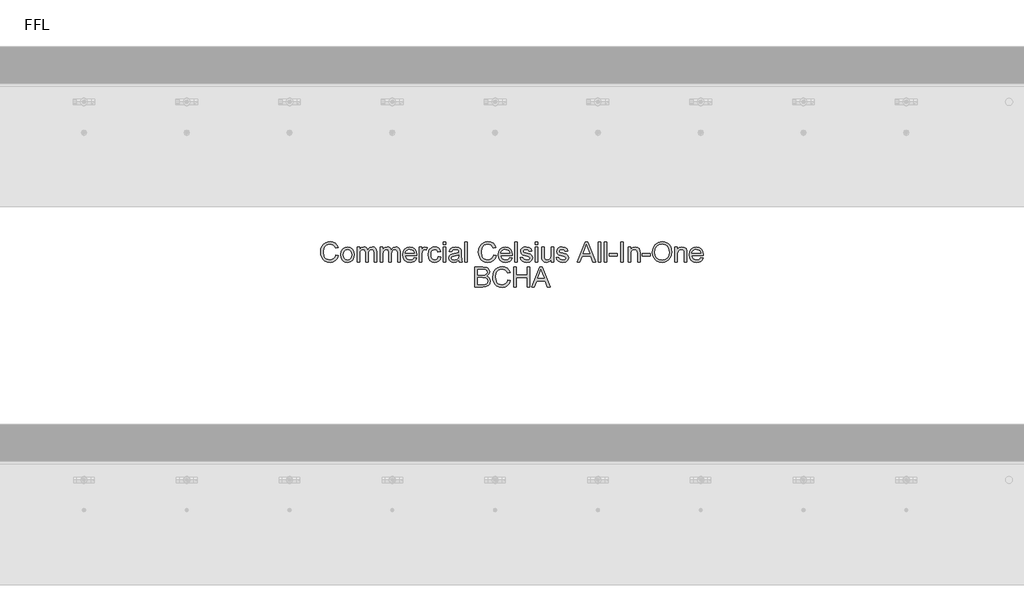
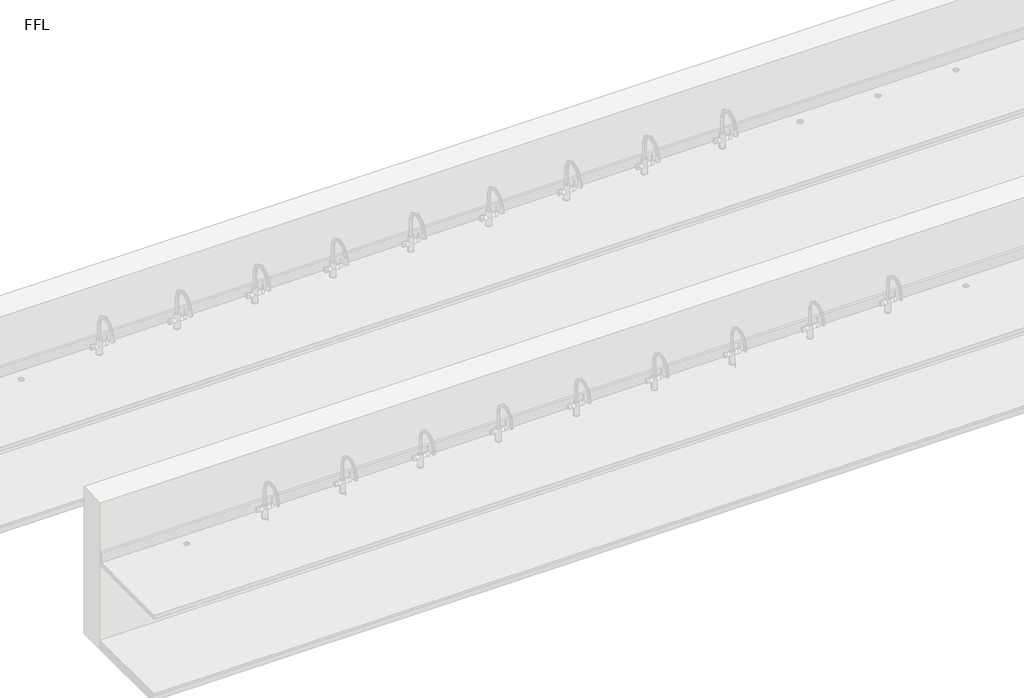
# One storey, part 8 of 10: 1 proxy.
"""IFC4 building model written with IfcOpenShell, lengths in millimetres."""

from ifc_helpers import new_model, si_unit, origin, origin_with_axes, place, context, project, spatial, polyline, outline, extrude, element, save

model = new_model("IFC4")

# Units and contexts
model_context = context("Model", 3, world=origin())
ifc_project = project(units=[si_unit("LENGTHUNIT", "METRE", prefix="MILLI")], contexts=[model_context])

# Site, building, storey
site = spatial("IfcSite", under=ifc_project)
building = spatial("IfcBuilding", under=site)
storey = spatial("IfcBuildingStorey", under=building, Name="FFL", Elevation=0.0)

# Proxy
placement = place(None, origin())
element("IfcBuildingElementProxy", 1, Name="150mm Arial", ObjectType="150mm Arial", at=placement, inside=storey, context=model_context, shape_type="SweptSolid", body=[
    extrude(outline(polyline([(-3627.8122159, 6596.3018309), (-3609.3506775, 6591.5422155), (-3617.8693073, 6570.0292948), (-3631.2376967, 6554.3126482), (-3648.7977929, 6544.698766), (-3669.8915429, 6541.4941386), (-3691.3053049, 6543.9190184), (-3708.311014, 6551.1936578), (-3721.3458698, 6563.065653), (-3730.8470717, 6579.2826001), (-3736.647853, 6598.3481049), (-3738.5814467, 6618.7657732), (-3736.3954491, 6640.3012299), (-3729.8374563, 6658.8979847), (-3719.2500164, 6673.9655929), (-3704.9756775, 6684.9136097), (-3688.0465909, 6691.5797756), (-3669.4949083, 6693.8018309), (-3649.2530212, 6690.9262299), (-3632.5177448, 6682.299427), (-3619.8119155, 6668.4532732), (-3611.6583698, 6649.9196193), (-3630.1199083, 6645.5205809), (-3636.5201486, 6658.9836217), (-3645.264139, 6668.2188982), (-3656.4600525, 6673.5599439), (-3670.2160621, 6675.3402924), (-3686.0724323, 6673.3661338), (-3699.0982736, 6667.4436578), (-3708.9825885, 6658.1948597), (-3715.4143794, 6646.2417347), (-3720.1199083, 6618.8018309), (-3714.5489948, 6586.9989463), (-3707.4276006, 6575.1224439), (-3697.2052448, 6566.6804367), (-3684.9501366, 6561.6368669), (-3671.7304852, 6559.955677), (-3656.3203289, 6562.2453405), (-3643.4792833, 6569.1143309), (-3633.7842712, 6580.4905328), (-3627.8122159, 6596.3018309)])), origin_with_axes(), (0.0, 0.0, 1.0), 5.0),
    extrude(outline(polyline([(-3590.889139, 6598.0326001), (-3586.8957496, 6624.1834415), (-3574.9155813, 6642.5638501), (-3560.1138986, 6651.5692588), (-3542.3915429, 6654.5710617), (-3522.9970116, 6650.9157131), (-3507.5057256, 6639.9496674), (-3497.350978, 6622.5383092), (-3493.9660621, 6599.5470232), (-3495.4624563, 6580.8961818), (-3499.951639, 6566.6984655), (-3507.302901, 6556.0659535), (-3517.3855333, 6548.1107251), (-3529.3611943, 6543.1482852), (-3542.3915429, 6541.4941386), (-3562.0204491, 6545.1359655), (-3577.4937063, 6556.0614463), (-3587.5402809, 6573.8378886), (-3590.889139, 6598.0326001)]), holes=[polyline([(-3572.4276006, 6598.0686578), (-3570.2911823, 6581.3604246), (-3563.8819275, 6569.456879), (-3554.2364948, 6562.3309775), (-3542.3915429, 6559.955677), (-3530.6006775, 6562.3444992), (-3520.9732736, 6569.5109655), (-3514.5640188, 6581.5722636), (-3512.4276006, 6598.6455809), (-3514.5775405, 6614.8670352), (-3521.0273602, 6626.6083213), (-3530.6682857, 6633.7342227), (-3542.3915429, 6636.1095232), (-3554.2364948, 6633.7432371), (-3563.8819275, 6626.644379), (-3570.2911823, 6614.7678766), (-3572.4276006, 6598.0686578)])]), origin_with_axes(), (0.0, 0.0, 1.0), 5.0),
    extrude(outline(polyline([(-3473.1968313, 6543.8018309), (-3473.1968313, 6652.2633693), (-3454.7352929, 6652.2633693), (-3454.7352929, 6634.4148117), (-3442.0429852, 6649.0362059), (-3423.9780813, 6654.5710617), (-3413.7106534, 6653.1603044), (-3405.4804852, 6648.9280328), (-3395.3122159, 6633.1167347), (-3380.9071679, 6649.2074799), (-3362.7160621, 6654.5710617), (-3348.8383578, 6652.3399919), (-3338.5754371, 6645.6467828), (-3332.2337905, 6634.3111458), (-3330.1199083, 6618.1527924), (-3330.1199083, 6543.8018309), (-3348.5814467, 6543.8018309), (-3348.5814467, 6610.2201001), (-3350.2941871, 6625.6347636), (-3356.4961102, 6633.2249078), (-3367.0429852, 6636.1095232), (-3377.0444876, 6634.2615665), (-3385.1980333, 6628.7176963), (-3390.6202087, 6619.0993068), (-3392.4276006, 6605.0277924), (-3392.4276006, 6543.8018309), (-3410.889139, 6543.8018309), (-3410.889139, 6612.2753886), (-3415.1619756, 6630.160004), (-3420.8004972, 6634.6221434), (-3429.170389, 6636.1095232), (-3442.8362544, 6632.143177), (-3451.9227929, 6620.5326001), (-3454.7352929, 6598.5013501), (-3454.7352929, 6543.8018309), (-3473.1968313, 6543.8018309)])), origin_with_axes(), (0.0, 0.0, 1.0), 5.0),
    extrude(outline(polyline([(-3302.4276006, 6543.8018309), (-3302.4276006, 6652.2633693), (-3283.9660621, 6652.2633693), (-3283.9660621, 6634.4148117), (-3271.2737544, 6649.0362059), (-3253.2088506, 6654.5710617), (-3242.9414227, 6653.1603044), (-3234.7112544, 6648.9280328), (-3224.5429852, 6633.1167347), (-3210.1379371, 6649.2074799), (-3191.9468313, 6654.5710617), (-3178.069127, 6652.3399919), (-3167.8062063, 6645.6467828), (-3161.4645597, 6634.3111458), (-3159.3506775, 6618.1527924), (-3159.3506775, 6543.8018309), (-3177.8122159, 6543.8018309), (-3177.8122159, 6610.2201001), (-3179.5249563, 6625.6347636), (-3185.7268794, 6633.2249078), (-3196.2737544, 6636.1095232), (-3206.2752568, 6634.2615665), (-3214.4288025, 6628.7176963), (-3219.850978, 6619.0993068), (-3221.6583698, 6605.0277924), (-3221.6583698, 6543.8018309), (-3240.1199083, 6543.8018309), (-3240.1199083, 6612.2753886), (-3244.3927448, 6630.160004), (-3250.0312664, 6634.6221434), (-3258.4011583, 6636.1095232), (-3272.0670236, 6632.143177), (-3281.1535621, 6620.5326001), (-3283.9660621, 6598.5013501), (-3283.9660621, 6543.8018309), (-3302.4276006, 6543.8018309)])), origin_with_axes(), (0.0, 0.0, 1.0), 5.0),
    extrude(outline(polyline([(-3055.7208698, 6576.1095232), (-3037.6199083, 6573.8018309), (-3044.1418434, 6560.1630088), (-3054.5489948, 6549.9676963), (-3068.6069876, 6543.612528), (-3086.0814467, 6541.4941386), (-3107.7431054, 6545.1494871), (-3124.4107736, 6556.1155328), (-3135.0387784, 6573.6801362), (-3138.5814467, 6597.1311578), (-3135.0027208, 6621.3709415), (-3124.2665429, 6639.4989463), (-3107.8242352, 6650.8030328), (-3087.1271198, 6654.5710617), (-3067.0745357, 6650.8120472), (-3051.0513986, 6639.535004), (-3040.5450885, 6621.4430568), (-3037.0429852, 6597.2393309), (-3037.1511583, 6592.2633693), (-3120.1199083, 6592.2633693), (-3116.9242953, 6578.4442588), (-3109.5009179, 6568.285004), (-3098.787276, 6562.0380088), (-3085.7208698, 6559.955677), (-3067.6199083, 6563.8138501), (-3055.7208698, 6576.1095232)]), holes=[polyline([(-3120.1199083, 6610.7249078), (-3055.5045236, 6610.7249078), (-3058.0015188, 6620.4785136), (-3062.8963506, 6627.455677), (-3073.6595717, 6633.9460617), (-3087.1992352, 6636.1095232), (-3099.6436462, 6634.3832612), (-3109.9336102, 6629.2044751), (-3117.0865549, 6621.1320592), (-3120.1199083, 6610.7249078)])]), origin_with_axes(), (0.0, 0.0, 1.0), 5.0),
    extrude(outline(polyline([(-3018.5814467, 6543.8018309), (-3018.5814467, 6652.2633693), (-3002.4276006, 6652.2633693), (-3002.4276006, 6636.2176963), (-2990.9612544, 6651.0013501), (-2979.4227929, 6654.5710617), (-2960.889139, 6648.8739463), (-2967.0550044, 6632.3234655), (-2980.0357736, 6636.1095232), (-2990.4744756, 6632.4676963), (-2997.1271198, 6622.3715424), (-3000.1199083, 6600.8090424), (-3000.1199083, 6543.8018309), (-3018.5814467, 6543.8018309)])), origin_with_axes(), (0.0, 0.0, 1.0), 5.0),
    extrude(outline(polyline([(-2880.1199083, 6583.0326001), (-2861.6583698, 6580.7249078), (-2866.8056054, 6564.3051362), (-2876.4780813, 6551.8967828), (-2889.7653409, 6544.0947996), (-2905.7569275, 6541.4941386), (-2925.3948482, 6545.1224439), (-2940.7509179, 6556.0073597), (-2950.662276, 6573.6711217), (-2953.9660621, 6597.6359655), (-2948.3230333, 6628.3030328), (-2941.201639, 6639.8009294), (-2931.123514, 6648.0085617), (-2919.0667232, 6652.9304367), (-2906.0093313, 6654.5710617), (-2890.4098722, 6652.3174559), (-2877.9384179, 6645.5566386), (-2868.991603, 6634.6491867), (-2863.9660621, 6619.955677), (-2882.4276006, 6617.6479847), (-2890.9913025, 6631.4761097), (-2905.8651006, 6636.1095232), (-2917.7956895, 6633.8288742), (-2927.2653409, 6626.986927), (-2933.444728, 6615.2140905), (-2935.5045236, 6598.1407732), (-2933.4898001, 6580.8375881), (-2927.4456294, 6569.0241867), (-2918.147252, 6562.2228044), (-2906.3699083, 6559.955677), (-2896.8101126, 6561.3709415), (-2888.9720717, 6565.6167347), (-2883.2704491, 6572.8012299), (-2880.1199083, 6583.0326001)])), origin_with_axes(), (0.0, 0.0, 1.0), 5.0),
    extrude(outline(polyline([(-2845.5045236, 6673.0326001), (-2845.5045236, 6691.4941386), (-2827.0429852, 6691.4941386), (-2827.0429852, 6673.0326001), (-2845.5045236, 6673.0326001)])), origin_with_axes(), (0.0, 0.0, 1.0), 5.0),
    extrude(outline(polyline([(-2845.5045236, 6543.8018309), (-2845.5045236, 6652.2633693), (-2827.0429852, 6652.2633693), (-2827.0429852, 6543.8018309), (-2845.5045236, 6543.8018309)])), origin_with_axes(), (0.0, 0.0, 1.0), 5.0),
    extrude(outline(polyline([(-2730.1199083, 6557.6479847), (-2748.0225525, 6545.1359655), (-2767.8001967, 6541.4941386), (-2783.2283818, 6543.6846434), (-2794.6090909, 6550.2561578), (-2801.6268193, 6560.2351242), (-2803.9660621, 6572.6479847), (-2800.4324083, 6587.2513501), (-2791.1475525, 6597.8523117), (-2778.2208698, 6603.910004), (-2762.2473121, 6606.6864463), (-2730.2280813, 6613.0326001), (-2730.1199083, 6617.143177), (-2731.3909419, 6625.3823597), (-2735.2040429, 6630.7729847), (-2743.7316871, 6634.7753886), (-2755.6126967, 6636.1095232), (-2774.2905813, 6632.5578405), (-2783.1968313, 6619.955677), (-2801.6583698, 6622.2633693), (-2793.6715909, 6640.2922155), (-2777.5898602, 6650.8571193), (-2753.232889, 6654.5710617), (-2730.8590909, 6651.2898117), (-2718.2208698, 6643.050629), (-2712.5598121, 6630.5205809), (-2711.6583698, 6614.3667347), (-2711.6583698, 6591.3979847), (-2710.7208698, 6559.3246674), (-2707.0429852, 6543.8018309), (-2725.5045236, 6543.8018309), (-2730.1199083, 6557.6479847)]), holes=[polyline([(-2730.1199083, 6594.5710617), (-2759.9035621, 6588.910004), (-2775.7869756, 6585.9172155), (-2782.9804852, 6581.049427), (-2785.5045236, 6573.9460617), (-2780.0057256, 6563.9580809), (-2763.8699083, 6559.955677), (-2745.1920236, 6564.3727443), (-2733.1487544, 6575.0638501), (-2730.2280813, 6589.3426963), (-2730.1199083, 6594.5710617)])]), origin_with_axes(), (0.0, 0.0, 1.0), 5.0),
    extrude(outline(polyline([(-2686.2737544, 6543.8018309), (-2686.2737544, 6691.4941386), (-2667.8122159, 6691.4941386), (-2667.8122159, 6543.8018309), (-2686.2737544, 6543.8018309)])), origin_with_axes(), (0.0, 0.0, 1.0), 5.0),
    extrude(outline(polyline([(-2476.2737544, 6596.3018309), (-2457.8122159, 6591.5422155), (-2466.3308458, 6570.0292948), (-2479.6992352, 6554.3126482), (-2497.2593313, 6544.698766), (-2518.3530813, 6541.4941386), (-2539.7668434, 6543.9190184), (-2556.7725525, 6551.1936578), (-2569.8074083, 6563.065653), (-2579.3086102, 6579.2826001), (-2585.1093914, 6598.3481049), (-2587.0429852, 6618.7657732), (-2584.8569876, 6640.3012299), (-2578.2989948, 6658.8979847), (-2567.7115549, 6673.9655929), (-2553.4372159, 6684.9136097), (-2536.5081294, 6691.5797756), (-2517.9564467, 6693.8018309), (-2497.7145597, 6690.9262299), (-2480.9792833, 6682.299427), (-2468.2734539, 6668.4532732), (-2460.1199083, 6649.9196193), (-2478.5814467, 6645.5205809), (-2484.9816871, 6658.9836217), (-2493.7256775, 6668.2188982), (-2504.9215909, 6673.5599439), (-2518.6776006, 6675.3402924), (-2534.5339708, 6673.3661338), (-2547.5598121, 6667.4436578), (-2557.444127, 6658.1948597), (-2563.8759179, 6646.2417347), (-2568.5814467, 6618.8018309), (-2563.0105333, 6586.9989463), (-2555.889139, 6575.1224439), (-2545.6667833, 6566.6804367), (-2533.4116751, 6561.6368669), (-2520.1920236, 6559.955677), (-2504.7818674, 6562.2453405), (-2491.9408217, 6569.1143309), (-2482.2458097, 6580.4905328), (-2476.2737544, 6596.3018309)])), origin_with_axes(), (0.0, 0.0, 1.0), 5.0),
    extrude(outline(polyline([(-2358.7977929, 6576.1095232), (-2340.6968313, 6573.8018309), (-2347.2187664, 6560.1630088), (-2357.6259179, 6549.9676963), (-2371.6839107, 6543.612528), (-2389.1583698, 6541.4941386), (-2410.8200284, 6545.1494871), (-2427.4876967, 6556.1155328), (-2438.1157015, 6573.6801362), (-2441.6583698, 6597.1311578), (-2438.0796438, 6621.3709415), (-2427.3434659, 6639.4989463), (-2410.9011583, 6650.8030328), (-2390.2040429, 6654.5710617), (-2370.1514587, 6650.8120472), (-2354.1283217, 6639.535004), (-2343.6220116, 6621.4430568), (-2340.1199083, 6597.2393309), (-2340.2280813, 6592.2633693), (-2423.1968313, 6592.2633693), (-2420.0012184, 6578.4442588), (-2412.5778409, 6568.285004), (-2401.8641991, 6562.0380088), (-2388.7977929, 6559.955677), (-2370.6968313, 6563.8138501), (-2358.7977929, 6576.1095232)]), holes=[polyline([(-2423.1968313, 6610.7249078), (-2358.5814467, 6610.7249078), (-2361.0784419, 6620.4785136), (-2365.9732736, 6627.455677), (-2376.7364948, 6633.9460617), (-2390.2761583, 6636.1095232), (-2402.7205693, 6634.3832612), (-2413.0105333, 6629.2044751), (-2420.163478, 6621.1320592), (-2423.1968313, 6610.7249078)])]), origin_with_axes(), (0.0, 0.0, 1.0), 5.0),
    extrude(outline(polyline([(-2321.6583698, 6543.8018309), (-2321.6583698, 6691.4941386), (-2303.1968313, 6691.4941386), (-2303.1968313, 6543.8018309), (-2321.6583698, 6543.8018309)])), origin_with_axes(), (0.0, 0.0, 1.0), 5.0),
    extrude(outline(polyline([(-2282.4276006, 6576.1095232), (-2263.9660621, 6578.4172155), (-2261.0544034, 6570.5205809), (-2255.420389, 6564.7152924), (-2235.8410621, 6559.955677), (-2217.0189467, 6564.3186578), (-2210.889139, 6574.5590424), (-2217.0550044, 6582.8523117), (-2236.0574083, 6588.1167347), (-2263.857889, 6597.1491867), (-2275.9913025, 6607.6960617), (-2280.1199083, 6622.5878886), (-2276.8026006, 6636.3438982), (-2267.7521198, 6646.8547155), (-2256.0153409, 6652.3174559), (-2240.1319275, 6654.5710617), (-2217.6679852, 6650.9472636), (-2203.389139, 6641.1395713), (-2197.0429852, 6624.5710617), (-2215.5045236, 6622.2633693), (-2222.4456294, 6632.4496674), (-2238.6896198, 6636.1095232), (-2256.357889, 6632.611927), (-2261.6583698, 6624.4628886), (-2259.4588506, 6619.0902924), (-2252.5718313, 6615.0157732), (-2236.670389, 6611.0854847), (-2209.5730333, 6602.3955809), (-2196.9888986, 6592.5518309), (-2192.4276006, 6576.5061578), (-2197.7821679, 6558.8378886), (-2213.232889, 6546.019379), (-2236.0934659, 6541.4941386), (-2254.7082496, 6543.675629), (-2268.2929852, 6550.2201001), (-2277.3614948, 6561.0554367), (-2282.4276006, 6576.1095232)])), origin_with_axes(), (0.0, 0.0, 1.0), 5.0),
    extrude(outline(polyline([(-2171.6583698, 6543.8018309), (-2171.6583698, 6652.2633693), (-2153.1968313, 6652.2633693), (-2153.1968313, 6543.8018309), (-2171.6583698, 6543.8018309)])), origin_with_axes(), (0.0, 0.0, 1.0), 5.0),
    extrude(outline(polyline([(-2171.6583698, 6673.0326001), (-2171.6583698, 6691.4941386), (-2153.1968313, 6691.4941386), (-2153.1968313, 6673.0326001), (-2171.6583698, 6673.0326001)])), origin_with_axes(), (0.0, 0.0, 1.0), 5.0),
    extrude(outline(polyline([(-2056.2737544, 6543.8018309), (-2056.2737544, 6562.4436578), (-2070.732889, 6546.7315184), (-2089.5910621, 6541.4941386), (-2106.9528409, 6545.1720232), (-2118.9239948, 6554.4027924), (-2124.4227929, 6567.9965424), (-2125.5045236, 6585.160004), (-2125.5045236, 6652.2633693), (-2107.0429852, 6652.2633693), (-2107.0429852, 6593.8499078), (-2105.9251967, 6575.0277924), (-2098.623514, 6563.9761097), (-2084.8675044, 6559.955677), (-2069.4528409, 6564.066254), (-2059.2665429, 6575.2621674), (-2056.2737544, 6595.8330809), (-2056.2737544, 6652.2633693), (-2037.8122159, 6652.2633693), (-2037.8122159, 6543.8018309), (-2056.2737544, 6543.8018309)])), origin_with_axes(), (0.0, 0.0, 1.0), 5.0),
    extrude(outline(polyline([(-2019.3506775, 6576.1095232), (-2000.889139, 6578.4172155), (-1997.9774804, 6570.5205809), (-1992.3434659, 6564.7152924), (-1972.764139, 6559.955677), (-1953.9420236, 6564.3186578), (-1947.8122159, 6574.5590424), (-1953.9780813, 6582.8523117), (-1972.9804852, 6588.1167347), (-2000.7809659, 6597.1491867), (-2012.9143794, 6607.6960617), (-2017.0429852, 6622.5878886), (-2013.7256775, 6636.3438982), (-2004.6751967, 6646.8547155), (-1992.9384179, 6652.3174559), (-1977.0550044, 6654.5710617), (-1954.5910621, 6650.9472636), (-1940.3122159, 6641.1395713), (-1933.9660621, 6624.5710617), (-1952.4276006, 6622.2633693), (-1959.3687063, 6632.4496674), (-1975.6126967, 6636.1095232), (-1993.2809659, 6632.611927), (-1998.5814467, 6624.4628886), (-1996.3819275, 6619.0902924), (-1989.4949083, 6615.0157732), (-1973.5934659, 6611.0854847), (-1946.4961102, 6602.3955809), (-1933.9119756, 6592.5518309), (-1929.3506775, 6576.5061578), (-1934.7052448, 6558.8378886), (-1950.1559659, 6546.019379), (-1973.0165429, 6541.4941386), (-1991.6313265, 6543.675629), (-2005.2160621, 6550.2201001), (-2014.2845717, 6561.0554367), (-2019.3506775, 6576.1095232)])), origin_with_axes(), (0.0, 0.0, 1.0), 5.0),
    extrude(outline(polyline([(-1865.7809659, 6543.8018309), (-1806.826639, 6691.4941386), (-1791.1054852, 6691.4941386), (-1732.1511583, 6543.8018309), (-1751.6583698, 6543.8018309), (-1768.5694275, 6589.955677), (-1829.3987544, 6589.955677), (-1846.2737544, 6543.8018309), (-1865.7809659, 6543.8018309)]), holes=[polyline([(-1822.6199083, 6608.4172155), (-1775.3122159, 6608.4172155), (-1788.6175044, 6644.7273117), (-1798.9660621, 6673.0326001), (-1808.1607736, 6647.9003886), (-1822.6199083, 6608.4172155)])]), origin_with_axes(), (0.0, 0.0, 1.0), 5.0),
    extrude(outline(polyline([(-1714.7352929, 6543.8018309), (-1714.7352929, 6691.4941386), (-1696.2737544, 6691.4941386), (-1696.2737544, 6543.8018309), (-1714.7352929, 6543.8018309)])), origin_with_axes(), (0.0, 0.0, 1.0), 5.0),
    extrude(outline(polyline([(-1668.5814467, 6543.8018309), (-1668.5814467, 6691.4941386), (-1650.1199083, 6691.4941386), (-1650.1199083, 6543.8018309), (-1668.5814467, 6543.8018309)])), origin_with_axes(), (0.0, 0.0, 1.0), 5.0),
    extrude(outline(polyline([(-1631.6583698, 6587.6479847), (-1631.6583698, 6606.1095232), (-1573.9660621, 6606.1095232), (-1573.9660621, 6587.6479847), (-1631.6583698, 6587.6479847)])), origin_with_axes(), (0.0, 0.0, 1.0), 5.0),
    extrude(outline(polyline([(-1548.5814467, 6543.8018309), (-1548.5814467, 6691.4941386), (-1530.1199083, 6691.4941386), (-1530.1199083, 6543.8018309), (-1548.5814467, 6543.8018309)])), origin_with_axes(), (0.0, 0.0, 1.0), 5.0),
    extrude(outline(polyline([(-1495.5045236, 6543.8018309), (-1495.5045236, 6652.2633693), (-1477.0429852, 6652.2633693), (-1477.0429852, 6637.1191386), (-1462.9263986, 6650.2080809), (-1443.6535621, 6654.5710617), (-1426.2196679, 6651.0554367), (-1414.3206294, 6641.8246674), (-1408.7857736, 6628.2489463), (-1407.8122159, 6610.4003886), (-1407.8122159, 6543.8018309), (-1426.2737544, 6543.8018309), (-1426.2737544, 6607.9124078), (-1428.4011583, 6624.2465424), (-1435.9191871, 6632.8823597), (-1448.5934659, 6636.1095232), (-1459.4062664, 6634.2976242), (-1468.623514, 6628.861927), (-1474.9381174, 6618.3601242), (-1477.0429852, 6601.3499078), (-1477.0429852, 6543.8018309), (-1495.5045236, 6543.8018309)])), origin_with_axes(), (0.0, 0.0, 1.0), 5.0),
    extrude(outline(polyline([(-1391.6583698, 6587.6479847), (-1391.6583698, 6606.1095232), (-1333.9660621, 6606.1095232), (-1333.9660621, 6587.6479847), (-1391.6583698, 6587.6479847)])), origin_with_axes(), (0.0, 0.0, 1.0), 5.0),
    extrude(outline(polyline([(-1317.8122159, 6615.7008693), (-1312.8903409, 6648.3601242), (-1298.1247159, 6673.0686578), (-1275.5796438, 6688.6185376), (-1247.3194275, 6693.8018309), (-1227.9474323, 6691.3679367), (-1210.576639, 6684.066254), (-1196.1535621, 6672.4106049), (-1185.6247159, 6656.9148117), (-1179.1884179, 6638.3270713), (-1177.0429852, 6617.3955809), (-1179.3010982, 6596.1846434), (-1186.0754371, 6577.3354847), (-1196.9919034, 6561.8126482), (-1211.6763986, 6550.580677), (-1228.8984539, 6543.7657732), (-1247.4276006, 6541.4941386), (-1267.0970717, 6544.0046554), (-1284.5670236, 6551.5362059), (-1298.9540429, 6563.4082011), (-1309.3747159, 6578.940052), (-1315.7028409, 6596.8111458), (-1317.8122159, 6615.7008693)]), holes=[polyline([(-1299.3506775, 6615.5205809), (-1295.6592712, 6592.4166145), (-1284.5850525, 6574.8114463), (-1267.9399203, 6563.6696193), (-1247.5357736, 6559.955677), (-1226.834151, 6563.705677), (-1210.1619756, 6574.955677), (-1199.1688866, 6593.1017107), (-1195.5045236, 6617.5398117), (-1197.0730333, 6633.8829607), (-1201.7785621, 6648.0085617), (-1209.4994155, 6659.5605448), (-1220.1138986, 6668.1828405), (-1232.9188866, 6673.5509294), (-1247.2112544, 6675.3402924), (-1267.0700284, 6671.8922756), (-1283.9540429, 6661.5482251), (-1295.5015188, 6643.1452804), (-1299.3506775, 6615.5205809)])]), origin_with_axes(), (0.0, 0.0, 1.0), 5.0),
    extrude(outline(polyline([(-1153.9660621, 6543.8018309), (-1153.9660621, 6652.2633693), (-1135.5045236, 6652.2633693), (-1135.5045236, 6637.1191386), (-1121.3879371, 6650.2080809), (-1102.1151006, 6654.5710617), (-1084.6812063, 6651.0554367), (-1072.7821679, 6641.8246674), (-1067.2473121, 6628.2489463), (-1066.2737544, 6610.4003886), (-1066.2737544, 6543.8018309), (-1084.7352929, 6543.8018309), (-1084.7352929, 6607.9124078), (-1086.8626967, 6624.2465424), (-1094.3807256, 6632.8823597), (-1107.0550044, 6636.1095232), (-1117.8678049, 6634.2976242), (-1127.0850525, 6628.861927), (-1133.3996559, 6618.3601242), (-1135.5045236, 6601.3499078), (-1135.5045236, 6543.8018309), (-1153.9660621, 6543.8018309)])), origin_with_axes(), (0.0, 0.0, 1.0), 5.0),
    extrude(outline(polyline([(-964.951639, 6576.1095232), (-946.8506775, 6573.8018309), (-953.3726126, 6560.1630088), (-963.779764, 6549.9676963), (-977.8377568, 6543.612528), (-995.3122159, 6541.4941386), (-1016.9738746, 6545.1494871), (-1033.6415429, 6556.1155328), (-1044.2695477, 6573.6801362), (-1047.8122159, 6597.1311578), (-1044.23349, 6621.3709415), (-1033.4973121, 6639.4989463), (-1017.0550044, 6650.8030328), (-996.357889, 6654.5710617), (-976.3053049, 6650.8120472), (-960.2821679, 6639.535004), (-949.7758578, 6621.4430568), (-946.2737544, 6597.2393309), (-946.3819275, 6592.2633693), (-1029.3506775, 6592.2633693), (-1026.1550645, 6578.4442588), (-1018.7316871, 6568.285004), (-1008.0180453, 6562.0380088), (-994.951639, 6559.955677), (-976.8506775, 6563.8138501), (-964.951639, 6576.1095232)]), holes=[polyline([(-1029.3506775, 6610.7249078), (-964.7352929, 6610.7249078), (-967.2322881, 6620.4785136), (-972.1271198, 6627.455677), (-982.8903409, 6633.9460617), (-996.4300044, 6636.1095232), (-1008.8744155, 6634.3832612), (-1019.1643794, 6629.2044751), (-1026.3173241, 6621.1320592), (-1029.3506775, 6610.7249078)])]), origin_with_axes(), (0.0, 0.0, 1.0), 5.0),
    extrude(outline(polyline([(-2612.4276006, 6361.4941386), (-2612.4276006, 6509.1864463), (-2556.0694275, 6509.1864463), (-2528.467264, 6504.8414943), (-2519.1914227, 6499.3291746), (-2512.1691871, 6491.4821193), (-2506.2737544, 6472.5878886), (-2511.2316871, 6455.3342828), (-2526.2136583, 6442.2633693), (-2515.7524203, 6436.800629), (-2508.0225525, 6428.4893309), (-2503.2494155, 6417.8793549), (-2501.6583698, 6405.5205809), (-2506.0033217, 6385.6708213), (-2516.7665429, 6371.5362059), (-2532.8302448, 6364.0362059), (-2556.5021198, 6361.4941386), (-2612.4276006, 6361.4941386)]), holes=[polyline([(-2593.9660621, 6449.1864463), (-2560.2521198, 6449.1864463), (-2540.5646198, 6450.7729847), (-2528.7196679, 6457.6059174), (-2524.7352929, 6469.6311578), (-2528.4492352, 6481.674427), (-2539.0862544, 6488.7958213), (-2562.8122159, 6490.7249078), (-2593.9660621, 6490.7249078), (-2593.9660621, 6449.1864463)]), polyline([(-2593.9660621, 6379.955677), (-2556.1054852, 6379.955677), (-2542.4035621, 6380.6768309), (-2530.811014, 6384.6972636), (-2523.1307256, 6392.9003886), (-2520.1199083, 6405.3402924), (-2523.6535621, 6419.691254), (-2535.1018794, 6428.2549559), (-2557.9083698, 6430.7249078), (-2593.9660621, 6430.7249078), (-2593.9660621, 6379.955677)])]), origin_with_axes(), (0.0, 0.0, 1.0), 5.0),
    extrude(outline(polyline([(-2372.4276006, 6413.9941386), (-2353.9660621, 6409.2345232), (-2362.4846919, 6387.7216025), (-2375.8530813, 6372.0049559), (-2393.4131775, 6362.3910737), (-2414.5069275, 6359.1864463), (-2435.9206895, 6361.6113261), (-2452.9263986, 6368.8859655), (-2465.9612544, 6380.7579607), (-2475.4624563, 6396.9749078), (-2481.2632376, 6416.0404126), (-2483.1968313, 6436.4580809), (-2481.0108337, 6457.9935376), (-2474.4528409, 6476.5902924), (-2463.865401, 6491.6579006), (-2449.5910621, 6502.6059174), (-2432.6619756, 6509.2720833), (-2414.1102929, 6511.4941386), (-2393.8684059, 6508.6185376), (-2377.1331294, 6499.9917347), (-2364.4273001, 6486.1455809), (-2356.2737544, 6467.611927), (-2374.7352929, 6463.2128886), (-2381.1355333, 6476.6759294), (-2389.8795236, 6485.9112059), (-2401.0754371, 6491.2522516), (-2414.8314467, 6493.0326001), (-2430.6878169, 6491.0584415), (-2443.7136583, 6485.1359655), (-2453.5979732, 6475.8871674), (-2460.029764, 6463.9340424), (-2464.7352929, 6436.4941386), (-2459.1643794, 6404.691254), (-2452.0429852, 6392.8147516), (-2441.8206294, 6384.3727443), (-2429.5655212, 6379.3291746), (-2416.3458698, 6377.6479847), (-2400.9357135, 6379.9376482), (-2388.0946679, 6386.8066386), (-2378.3996559, 6398.1828405), (-2372.4276006, 6413.9941386)])), origin_with_axes(), (0.0, 0.0, 1.0), 5.0),
    extrude(outline(polyline([(-2328.5814467, 6361.4941386), (-2328.5814467, 6509.1864463), (-2310.1199083, 6509.1864463), (-2310.1199083, 6449.1864463), (-2231.6583698, 6449.1864463), (-2231.6583698, 6509.1864463), (-2213.1968313, 6509.1864463), (-2213.1968313, 6361.4941386), (-2231.6583698, 6361.4941386), (-2231.6583698, 6430.7249078), (-2310.1199083, 6430.7249078), (-2310.1199083, 6361.4941386), (-2328.5814467, 6361.4941386)])), origin_with_axes(), (0.0, 0.0, 1.0), 5.0),
    extrude(outline(polyline([(-2198.0886583, 6361.4941386), (-2139.1343313, 6509.1864463), (-2123.4131775, 6509.1864463), (-2064.4588506, 6361.4941386), (-2083.9660621, 6361.4941386), (-2100.8771198, 6407.6479847), (-2161.7064467, 6407.6479847), (-2178.5814467, 6361.4941386), (-2198.0886583, 6361.4941386)]), holes=[polyline([(-2154.9276006, 6426.1095232), (-2107.6199083, 6426.1095232), (-2120.9251967, 6462.4196193), (-2131.2737544, 6490.7249078), (-2140.4684659, 6465.5926963), (-2154.9276006, 6426.1095232)])]), origin_with_axes(), (0.0, 0.0, 1.0), 5.0),
])

save(model, "model.ifc")
